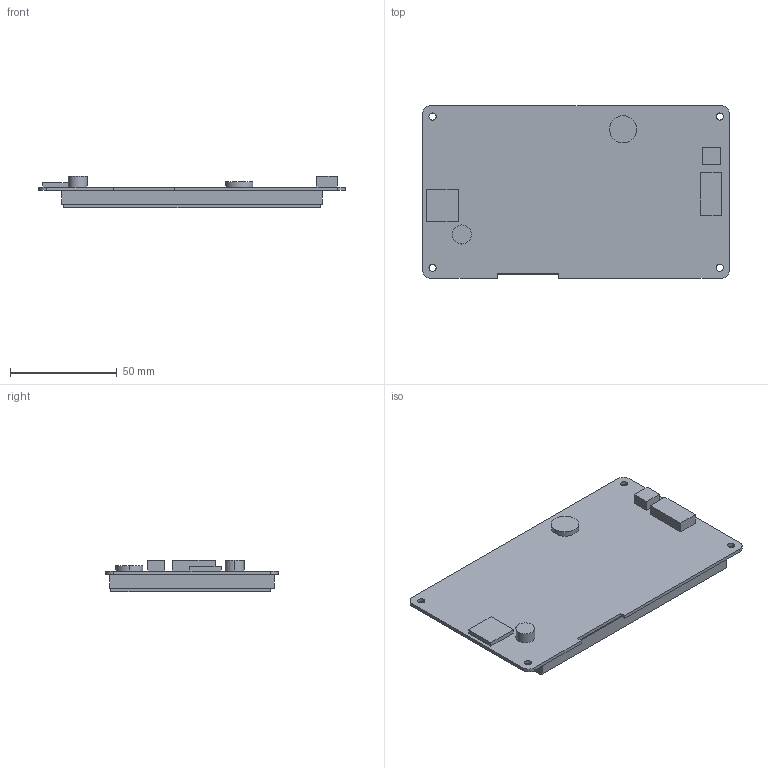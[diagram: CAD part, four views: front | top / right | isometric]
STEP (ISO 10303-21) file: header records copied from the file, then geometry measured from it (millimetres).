
FILE_DESCRIPTION((''),'2;1');
FILE_NAME('DMG80480S050-03WTC','2022-07-07T',('Administrator'),(''),'PRO/ENGINEER BY PARAMETRIC TECHNOLOGY CORPORATION, 2014320','PRO/ENGINEER BY PARAMETRIC TECHNOLOGY CORPORATION, 2014320','');
FILE_SCHEMA(('CONFIG_CONTROL_DESIGN','SHAPE_APPEARANCE_LAYERS_GROUPS'));
Length unit declared in the file: millimetre
Products named in the file (1): DMG80480S050-03WTC
Bounding box: 143.38 x 80.77 x 14.65 mm (x, y, z)
Volume: 91140.8 mm3; surface area: 43030.2 mm2
Topology: 1 solids, 2 shells, 70 faces, 172 edges, 114 vertices
Faces by surface type: plane 54, cylinder 16
Entity records: 2148 total; most frequent: CARTESIAN_POINT 356, DIRECTION 344, ORIENTED_EDGE 344, EDGE_CURVE 172, VECTOR 140, LINE 140, VERTEX_POINT 114, AXIS2_PLACEMENT_3D 102
